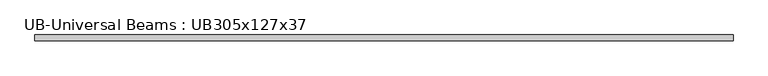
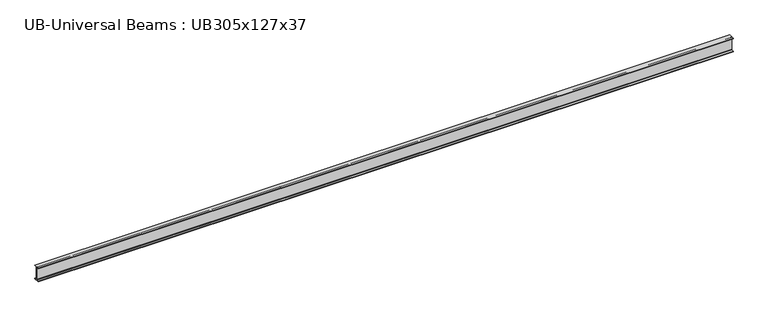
"""IFC4 building model written with IfcOpenShell, lengths in millimetres: beam geometry, UB-Universal Beams : UB305x127x37."""

from ifc_helpers import new_model, si_unit, point, frame, frame_2d, origin, place, context, project, spatial, polyline, circle_curve, trimmed, segment, composite_curve, outline, extrude, source, transform, mapped, element, save


def ub_universal_beams_ub305x127x37_c2daeff1(model_context):
    return source(origin(), model_context, "Body", "SweptSolid", [
        extrude(outline(composite_curve([segment(polyline([(61.7, -141.5), (61.7, -152.2), (-61.7, -152.2), (-61.7, -141.5), (-12.45, -141.5)]), True, "CONTINUOUS"), segment(trimmed(circle_curve(frame_2d((-12.45, -132.6)), 8.9), [point((-12.45, -141.5))], [point((-3.55, -132.6))], True, "CARTESIAN"), True, "CONTINUOUS"), segment(polyline([(-3.55, -132.6), (-3.55, 132.6)]), True, "CONTINUOUS"), segment(trimmed(circle_curve(frame_2d((-12.45, 132.6)), 8.9), [point((-3.55, 132.6))], [point((-12.45, 141.5))], True, "CARTESIAN"), True, "CONTINUOUS"), segment(polyline([(-12.45, 141.5), (-61.7, 141.5), (-61.7, 152.2), (61.7, 152.2), (61.7, 141.5), (12.45, 141.5)]), True, "CONTINUOUS"), segment(trimmed(circle_curve(frame_2d((12.45, 132.6)), 8.9), [point((12.45, 141.5))], [point((3.55, 132.6))], True, "CARTESIAN"), True, "CONTINUOUS"), segment(polyline([(3.55, 132.6), (3.55, -132.6)]), True, "CONTINUOUS"), segment(trimmed(circle_curve(frame_2d((12.45, -132.6)), 8.9), [point((3.55, -132.6))], [point((12.45, -141.5))], True, "CARTESIAN"), True, "CONTINUOUS"), segment(polyline([(12.45, -141.5), (61.7, -141.5)]), True, "CONTINUOUS")], self_intersect=False)), frame((-7410.4, 0.0, 0.0), z_axis=(1.0, 0.0, 0.0), x_axis=(0.0, 1.0, 0.0)), (0.0, 0.0, 1.0), 14790.7),
    ])


if __name__ == "__main__":
    model = new_model("IFC4")
    model_context = context("Model", 3, world=origin())
    ifc_project = project(units=[si_unit("LENGTHUNIT", "METRE", prefix="MILLI")], contexts=[model_context])
    site = spatial("IfcSite", under=ifc_project)
    building = spatial("IfcBuilding", under=site)
    placement = place(None, origin())
    ub_universal_beams_ub305x127x37_shape = ub_universal_beams_ub305x127x37_c2daeff1(model_context)
    element("IfcBeam", 1, ObjectType="UB-Universal Beams : UB305x127x37", at=placement, inside=building, context=model_context, shape_type="MappedRepresentation", body=[
        mapped(ub_universal_beams_ub305x127x37_shape, transform((0.0, 0.0, 0.0), x_axis=(1.0, 0.0, 0.0), y_axis=(0.0, 1.0, 0.0), z_axis=(0.0, 0.0, 1.0))),
    ])
    save(model, "model.ifc")
